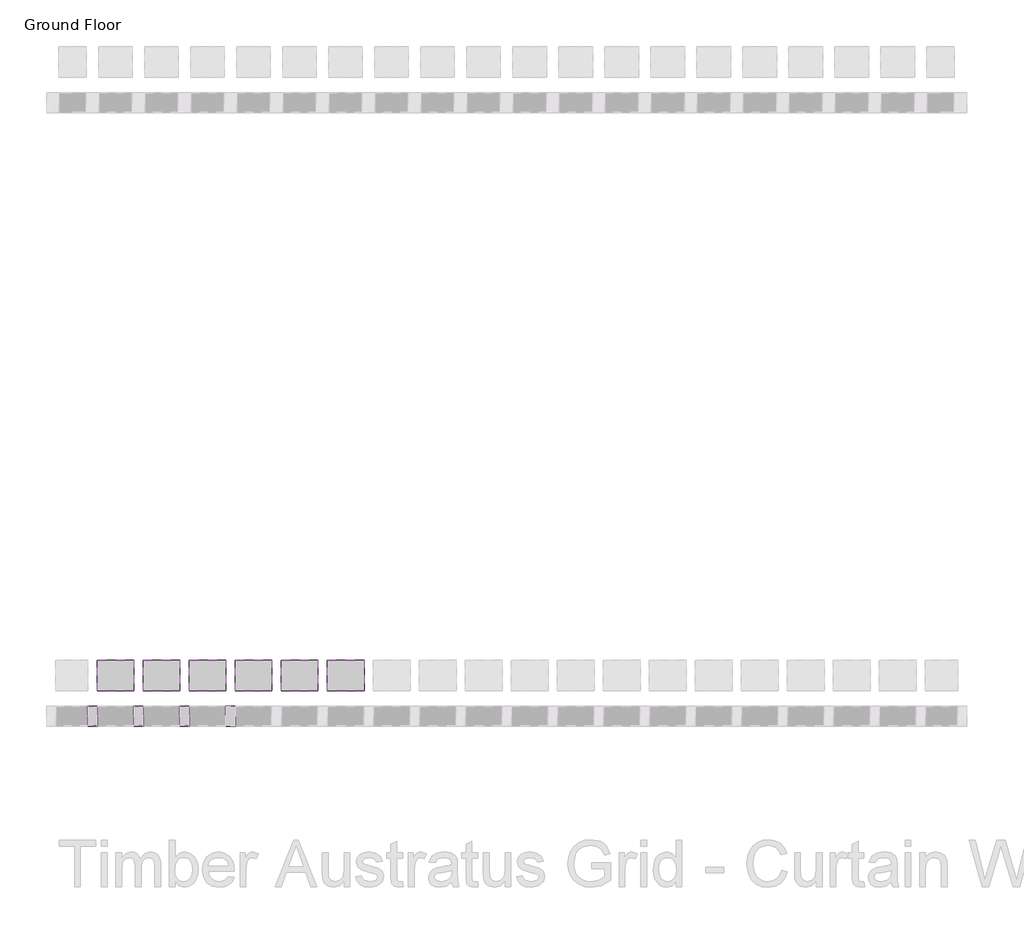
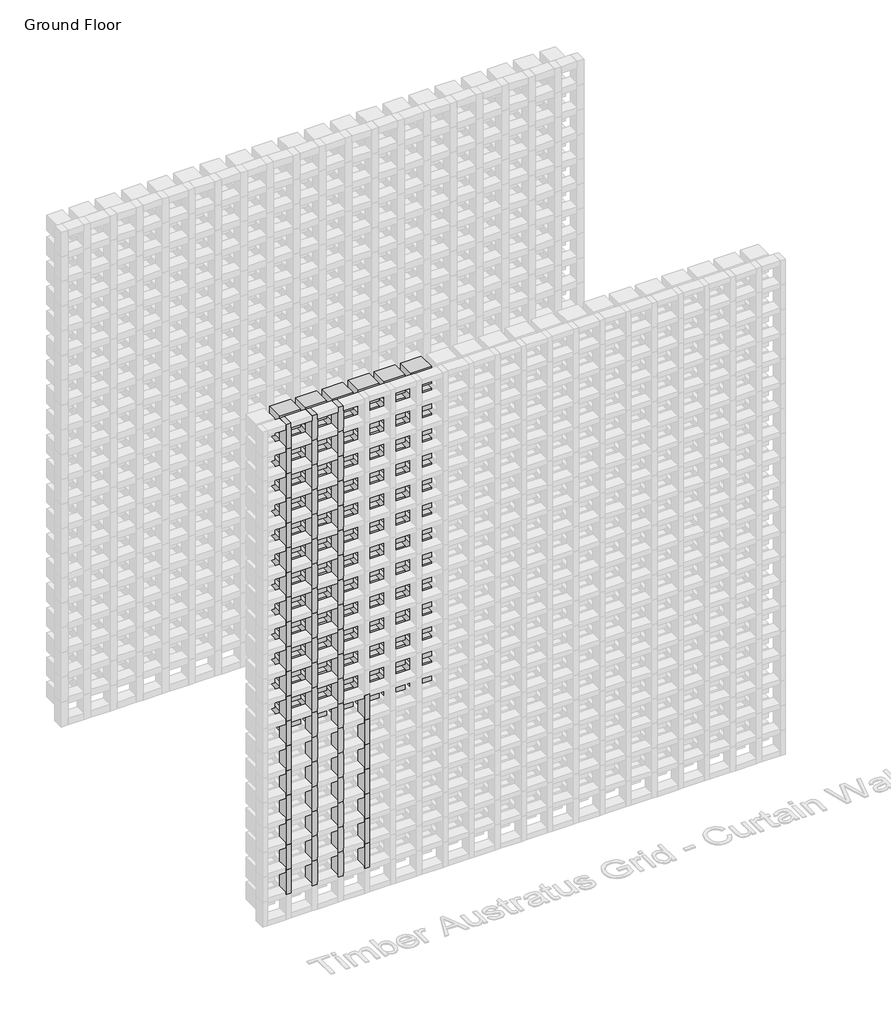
# One storey, part 47 of 350: 78 plates, 64 members.
"""IFC4 building model written with IfcOpenShell, lengths in millimetres."""

from ifc_helpers import new_model, si_unit, origin, place, context, project, spatial, transform, mapped, element, save
from components import rectangular_mullion_5b501421, empty_system_panel_empty_a57e421f, empty_system_panel_empty_fe50b430

model = new_model("IFC4")

# Units and contexts
model_context = context("Model", 3, world=origin())
ifc_project = project(units=[si_unit("LENGTHUNIT", "METRE", prefix="MILLI")], contexts=[model_context])

# Site, building, storey
site = spatial("IfcSite", under=ifc_project)
building = spatial("IfcBuilding", under=site)
storey = spatial("IfcBuildingStorey", under=building, Name="Ground Floor", Elevation=0.0)

# Members
placement = place(None, origin())
rectangular_mullion_shape = rectangular_mullion_5b501421(model_context)
element("IfcMember", 1, ObjectType="Rectangular Mullion : Batten_Timber_Modinex_Austratus_Grid_Fascia_30x65_AlaskanYellowCedar", at=placement, inside=storey, context=model_context, shape_type="MappedRepresentation", body=[
    mapped(rectangular_mullion_shape, transform((2066.4361642, 38968.2978302, 150.0), x_axis=(1.0, 0.0, 0.0), y_axis=(0.0, -1.0, 0.0), z_axis=(0.0, 0.0, -1.0))),
])
element("IfcMember", 2, ObjectType="Rectangular Mullion : Batten_Timber_Modinex_Austratus_Grid_Fascia_30x65_AlaskanYellowCedar", at=placement, inside=storey, context=model_context, shape_type="MappedRepresentation", body=[
    mapped(rectangular_mullion_shape, transform((2066.4361642, 38968.2978302, 300.0), x_axis=(1.0, 0.0, 0.0), y_axis=(0.0, -1.0, 0.0), z_axis=(0.0, 0.0, -1.0))),
])
element("IfcMember", 3, ObjectType="Rectangular Mullion : Batten_Timber_Modinex_Austratus_Grid_Fascia_30x65_AlaskanYellowCedar", at=placement, inside=storey, context=model_context, shape_type="MappedRepresentation", body=[
    mapped(rectangular_mullion_shape, transform((2066.4361642, 38968.2978302, 450.0), x_axis=(1.0, 0.0, 0.0), y_axis=(0.0, -1.0, 0.0), z_axis=(0.0, 0.0, -1.0))),
])
element("IfcMember", 4, ObjectType="Rectangular Mullion : Batten_Timber_Modinex_Austratus_Grid_Fascia_30x65_AlaskanYellowCedar", at=placement, inside=storey, context=model_context, shape_type="MappedRepresentation", body=[
    mapped(rectangular_mullion_shape, transform((2066.4361642, 38968.2978302, 600.0), x_axis=(1.0, 0.0, 0.0), y_axis=(0.0, -1.0, 0.0), z_axis=(0.0, 0.0, -1.0))),
])
element("IfcMember", 5, ObjectType="Rectangular Mullion : Batten_Timber_Modinex_Austratus_Grid_Fascia_30x65_AlaskanYellowCedar", at=placement, inside=storey, context=model_context, shape_type="MappedRepresentation", body=[
    mapped(rectangular_mullion_shape, transform((2066.4361642, 38968.2978302, 750.0), x_axis=(1.0, 0.0, 0.0), y_axis=(0.0, -1.0, 0.0), z_axis=(0.0, 0.0, -1.0))),
])
element("IfcMember", 6, ObjectType="Rectangular Mullion : Batten_Timber_Modinex_Austratus_Grid_Fascia_30x65_AlaskanYellowCedar", at=placement, inside=storey, context=model_context, shape_type="MappedRepresentation", body=[
    mapped(rectangular_mullion_shape, transform((2066.4361642, 38968.2978302, 900.0), x_axis=(1.0, 0.0, 0.0), y_axis=(0.0, -1.0, 0.0), z_axis=(0.0, 0.0, -1.0))),
])
element("IfcMember", 7, ObjectType="Rectangular Mullion : Batten_Timber_Modinex_Austratus_Grid_Fascia_30x65_AlaskanYellowCedar", at=placement, inside=storey, context=model_context, shape_type="MappedRepresentation", body=[
    mapped(rectangular_mullion_shape, transform((2066.4361642, 38968.2978302, 1050.0), x_axis=(1.0, 0.0, 0.0), y_axis=(0.0, -1.0, 0.0), z_axis=(0.0, 0.0, -1.0))),
])
element("IfcMember", 8, ObjectType="Rectangular Mullion : Batten_Timber_Modinex_Austratus_Grid_Fascia_30x65_AlaskanYellowCedar", at=placement, inside=storey, context=model_context, shape_type="MappedRepresentation", body=[
    mapped(rectangular_mullion_shape, transform((2066.4361642, 38968.2978302, 1200.0), x_axis=(1.0, 0.0, 0.0), y_axis=(0.0, -1.0, 0.0), z_axis=(0.0, 0.0, -1.0))),
])
element("IfcMember", 9, ObjectType="Rectangular Mullion : Batten_Timber_Modinex_Austratus_Grid_Fascia_30x65_AlaskanYellowCedar", at=placement, inside=storey, context=model_context, shape_type="MappedRepresentation", body=[
    mapped(rectangular_mullion_shape, transform((2066.4361642, 38968.2978302, 1350.0), x_axis=(1.0, 0.0, 0.0), y_axis=(0.0, -1.0, 0.0), z_axis=(0.0, 0.0, -1.0))),
])
element("IfcMember", 10, ObjectType="Rectangular Mullion : Batten_Timber_Modinex_Austratus_Grid_Fascia_30x65_AlaskanYellowCedar", at=placement, inside=storey, context=model_context, shape_type="MappedRepresentation", body=[
    mapped(rectangular_mullion_shape, transform((2066.4361642, 38968.2978302, 1500.0), x_axis=(1.0, 0.0, 0.0), y_axis=(0.0, -1.0, 0.0), z_axis=(0.0, 0.0, -1.0))),
])
element("IfcMember", 11, ObjectType="Rectangular Mullion : Batten_Timber_Modinex_Austratus_Grid_Fascia_30x65_AlaskanYellowCedar", at=placement, inside=storey, context=model_context, shape_type="MappedRepresentation", body=[
    mapped(rectangular_mullion_shape, transform((2066.4361642, 38968.2978302, 1650.0), x_axis=(1.0, 0.0, 0.0), y_axis=(0.0, -1.0, 0.0), z_axis=(0.0, 0.0, -1.0))),
])
element("IfcMember", 12, ObjectType="Rectangular Mullion : Batten_Timber_Modinex_Austratus_Grid_Fascia_30x65_AlaskanYellowCedar", at=placement, inside=storey, context=model_context, shape_type="MappedRepresentation", body=[
    mapped(rectangular_mullion_shape, transform((2066.4361642, 38968.2978302, 1800.0), x_axis=(1.0, 0.0, 0.0), y_axis=(0.0, -1.0, 0.0), z_axis=(0.0, 0.0, -1.0))),
])
element("IfcMember", 13, ObjectType="Rectangular Mullion : Batten_Timber_Modinex_Austratus_Grid_Fascia_30x65_AlaskanYellowCedar", at=placement, inside=storey, context=model_context, shape_type="MappedRepresentation", body=[
    mapped(rectangular_mullion_shape, transform((2066.4361642, 38968.2978302, 1950.0), x_axis=(1.0, 0.0, 0.0), y_axis=(0.0, -1.0, 0.0), z_axis=(0.0, 0.0, -1.0))),
])
element("IfcMember", 14, ObjectType="Rectangular Mullion : Batten_Timber_Modinex_Austratus_Grid_Fascia_30x65_AlaskanYellowCedar", at=placement, inside=storey, context=model_context, shape_type="MappedRepresentation", body=[
    mapped(rectangular_mullion_shape, transform((2066.4361642, 38968.2978302, 2100.0), x_axis=(1.0, 0.0, 0.0), y_axis=(0.0, -1.0, 0.0), z_axis=(0.0, 0.0, -1.0))),
])
element("IfcMember", 15, ObjectType="Rectangular Mullion : Batten_Timber_Modinex_Austratus_Grid_Fascia_30x65_AlaskanYellowCedar", at=placement, inside=storey, context=model_context, shape_type="MappedRepresentation", body=[
    mapped(rectangular_mullion_shape, transform((2066.4361642, 38968.2978302, 2250.0), x_axis=(1.0, 0.0, 0.0), y_axis=(0.0, -1.0, 0.0), z_axis=(0.0, 0.0, -1.0))),
])
element("IfcMember", 16, ObjectType="Rectangular Mullion : Batten_Timber_Modinex_Austratus_Grid_Fascia_30x65_AlaskanYellowCedar", at=placement, inside=storey, context=model_context, shape_type="MappedRepresentation", body=[
    mapped(rectangular_mullion_shape, transform((2066.4361642, 38968.2978302, 2400.0), x_axis=(1.0, 0.0, 0.0), y_axis=(0.0, -1.0, 0.0), z_axis=(0.0, 0.0, -1.0))),
])
element("IfcMember", 17, ObjectType="Rectangular Mullion : Batten_Timber_Modinex_Austratus_Grid_Fascia_30x65_AlaskanYellowCedar", at=placement, inside=storey, context=model_context, shape_type="MappedRepresentation", body=[
    mapped(rectangular_mullion_shape, transform((2066.4361642, 38968.2978302, 2550.0), x_axis=(1.0, 0.0, 0.0), y_axis=(0.0, -1.0, 0.0), z_axis=(0.0, 0.0, -1.0))),
])
element("IfcMember", 18, ObjectType="Rectangular Mullion : Batten_Timber_Modinex_Austratus_Grid_Fascia_30x65_AlaskanYellowCedar", at=placement, inside=storey, context=model_context, shape_type="MappedRepresentation", body=[
    mapped(rectangular_mullion_shape, transform((2066.4361642, 38968.2978302, 2700.0), x_axis=(1.0, 0.0, 0.0), y_axis=(0.0, -1.0, 0.0), z_axis=(0.0, 0.0, -1.0))),
])
element("IfcMember", 19, ObjectType="Rectangular Mullion : Batten_Timber_Modinex_Austratus_Grid_Fascia_30x65_AlaskanYellowCedar", at=placement, inside=storey, context=model_context, shape_type="MappedRepresentation", body=[
    mapped(rectangular_mullion_shape, transform((2216.4361642, 38968.2978302, 150.0), x_axis=(1.0, 0.0, 0.0), y_axis=(0.0, -1.0, 0.0), z_axis=(0.0, 0.0, -1.0))),
])
element("IfcMember", 20, ObjectType="Rectangular Mullion : Batten_Timber_Modinex_Austratus_Grid_Fascia_30x65_AlaskanYellowCedar", at=placement, inside=storey, context=model_context, shape_type="MappedRepresentation", body=[
    mapped(rectangular_mullion_shape, transform((2216.4361642, 38968.2978302, 300.0), x_axis=(1.0, 0.0, 0.0), y_axis=(0.0, -1.0, 0.0), z_axis=(0.0, 0.0, -1.0))),
])
element("IfcMember", 21, ObjectType="Rectangular Mullion : Batten_Timber_Modinex_Austratus_Grid_Fascia_30x65_AlaskanYellowCedar", at=placement, inside=storey, context=model_context, shape_type="MappedRepresentation", body=[
    mapped(rectangular_mullion_shape, transform((2216.4361642, 38968.2978302, 450.0), x_axis=(1.0, 0.0, 0.0), y_axis=(0.0, -1.0, 0.0), z_axis=(0.0, 0.0, -1.0))),
])
element("IfcMember", 22, ObjectType="Rectangular Mullion : Batten_Timber_Modinex_Austratus_Grid_Fascia_30x65_AlaskanYellowCedar", at=placement, inside=storey, context=model_context, shape_type="MappedRepresentation", body=[
    mapped(rectangular_mullion_shape, transform((2216.4361642, 38968.2978302, 600.0), x_axis=(1.0, 0.0, 0.0), y_axis=(0.0, -1.0, 0.0), z_axis=(0.0, 0.0, -1.0))),
])
element("IfcMember", 23, ObjectType="Rectangular Mullion : Batten_Timber_Modinex_Austratus_Grid_Fascia_30x65_AlaskanYellowCedar", at=placement, inside=storey, context=model_context, shape_type="MappedRepresentation", body=[
    mapped(rectangular_mullion_shape, transform((2216.4361642, 38968.2978302, 750.0), x_axis=(1.0, 0.0, 0.0), y_axis=(0.0, -1.0, 0.0), z_axis=(0.0, 0.0, -1.0))),
])
element("IfcMember", 24, ObjectType="Rectangular Mullion : Batten_Timber_Modinex_Austratus_Grid_Fascia_30x65_AlaskanYellowCedar", at=placement, inside=storey, context=model_context, shape_type="MappedRepresentation", body=[
    mapped(rectangular_mullion_shape, transform((2216.4361642, 38968.2978302, 900.0), x_axis=(1.0, 0.0, 0.0), y_axis=(0.0, -1.0, 0.0), z_axis=(0.0, 0.0, -1.0))),
])
element("IfcMember", 25, ObjectType="Rectangular Mullion : Batten_Timber_Modinex_Austratus_Grid_Fascia_30x65_AlaskanYellowCedar", at=placement, inside=storey, context=model_context, shape_type="MappedRepresentation", body=[
    mapped(rectangular_mullion_shape, transform((2216.4361642, 38968.2978302, 1050.0), x_axis=(1.0, 0.0, 0.0), y_axis=(0.0, -1.0, 0.0), z_axis=(0.0, 0.0, -1.0))),
])
element("IfcMember", 26, ObjectType="Rectangular Mullion : Batten_Timber_Modinex_Austratus_Grid_Fascia_30x65_AlaskanYellowCedar", at=placement, inside=storey, context=model_context, shape_type="MappedRepresentation", body=[
    mapped(rectangular_mullion_shape, transform((2216.4361642, 38968.2978302, 1200.0), x_axis=(1.0, 0.0, 0.0), y_axis=(0.0, -1.0, 0.0), z_axis=(0.0, 0.0, -1.0))),
])
element("IfcMember", 27, ObjectType="Rectangular Mullion : Batten_Timber_Modinex_Austratus_Grid_Fascia_30x65_AlaskanYellowCedar", at=placement, inside=storey, context=model_context, shape_type="MappedRepresentation", body=[
    mapped(rectangular_mullion_shape, transform((2216.4361642, 38968.2978302, 1350.0), x_axis=(1.0, 0.0, 0.0), y_axis=(0.0, -1.0, 0.0), z_axis=(0.0, 0.0, -1.0))),
])
element("IfcMember", 28, ObjectType="Rectangular Mullion : Batten_Timber_Modinex_Austratus_Grid_Fascia_30x65_AlaskanYellowCedar", at=placement, inside=storey, context=model_context, shape_type="MappedRepresentation", body=[
    mapped(rectangular_mullion_shape, transform((2216.4361642, 38968.2978302, 1500.0), x_axis=(1.0, 0.0, 0.0), y_axis=(0.0, -1.0, 0.0), z_axis=(0.0, 0.0, -1.0))),
])
element("IfcMember", 29, ObjectType="Rectangular Mullion : Batten_Timber_Modinex_Austratus_Grid_Fascia_30x65_AlaskanYellowCedar", at=placement, inside=storey, context=model_context, shape_type="MappedRepresentation", body=[
    mapped(rectangular_mullion_shape, transform((2216.4361642, 38968.2978302, 1650.0), x_axis=(1.0, 0.0, 0.0), y_axis=(0.0, -1.0, 0.0), z_axis=(0.0, 0.0, -1.0))),
])
element("IfcMember", 30, ObjectType="Rectangular Mullion : Batten_Timber_Modinex_Austratus_Grid_Fascia_30x65_AlaskanYellowCedar", at=placement, inside=storey, context=model_context, shape_type="MappedRepresentation", body=[
    mapped(rectangular_mullion_shape, transform((2216.4361642, 38968.2978302, 1800.0), x_axis=(1.0, 0.0, 0.0), y_axis=(0.0, -1.0, 0.0), z_axis=(0.0, 0.0, -1.0))),
])
element("IfcMember", 31, ObjectType="Rectangular Mullion : Batten_Timber_Modinex_Austratus_Grid_Fascia_30x65_AlaskanYellowCedar", at=placement, inside=storey, context=model_context, shape_type="MappedRepresentation", body=[
    mapped(rectangular_mullion_shape, transform((2216.4361642, 38968.2978302, 1950.0), x_axis=(1.0, 0.0, 0.0), y_axis=(0.0, -1.0, 0.0), z_axis=(0.0, 0.0, -1.0))),
])
element("IfcMember", 32, ObjectType="Rectangular Mullion : Batten_Timber_Modinex_Austratus_Grid_Fascia_30x65_AlaskanYellowCedar", at=placement, inside=storey, context=model_context, shape_type="MappedRepresentation", body=[
    mapped(rectangular_mullion_shape, transform((2216.4361642, 38968.2978302, 2100.0), x_axis=(1.0, 0.0, 0.0), y_axis=(0.0, -1.0, 0.0), z_axis=(0.0, 0.0, -1.0))),
])
element("IfcMember", 33, ObjectType="Rectangular Mullion : Batten_Timber_Modinex_Austratus_Grid_Fascia_30x65_AlaskanYellowCedar", at=placement, inside=storey, context=model_context, shape_type="MappedRepresentation", body=[
    mapped(rectangular_mullion_shape, transform((2216.4361642, 38968.2978302, 2250.0), x_axis=(1.0, 0.0, 0.0), y_axis=(0.0, -1.0, 0.0), z_axis=(0.0, 0.0, -1.0))),
])
element("IfcMember", 34, ObjectType="Rectangular Mullion : Batten_Timber_Modinex_Austratus_Grid_Fascia_30x65_AlaskanYellowCedar", at=placement, inside=storey, context=model_context, shape_type="MappedRepresentation", body=[
    mapped(rectangular_mullion_shape, transform((2216.4361642, 38968.2978302, 2400.0), x_axis=(1.0, 0.0, 0.0), y_axis=(0.0, -1.0, 0.0), z_axis=(0.0, 0.0, -1.0))),
])
element("IfcMember", 35, ObjectType="Rectangular Mullion : Batten_Timber_Modinex_Austratus_Grid_Fascia_30x65_AlaskanYellowCedar", at=placement, inside=storey, context=model_context, shape_type="MappedRepresentation", body=[
    mapped(rectangular_mullion_shape, transform((2216.4361642, 38968.2978302, 2550.0), x_axis=(1.0, 0.0, 0.0), y_axis=(0.0, -1.0, 0.0), z_axis=(0.0, 0.0, -1.0))),
])
element("IfcMember", 36, ObjectType="Rectangular Mullion : Batten_Timber_Modinex_Austratus_Grid_Fascia_30x65_AlaskanYellowCedar", at=placement, inside=storey, context=model_context, shape_type="MappedRepresentation", body=[
    mapped(rectangular_mullion_shape, transform((2216.4361642, 38968.2978302, 2700.0), x_axis=(1.0, 0.0, 0.0), y_axis=(0.0, -1.0, 0.0), z_axis=(0.0, 0.0, -1.0))),
])
element("IfcMember", 37, ObjectType="Rectangular Mullion : Batten_Timber_Modinex_Austratus_Grid_Fascia_30x65_AlaskanYellowCedar", at=placement, inside=storey, context=model_context, shape_type="MappedRepresentation", body=[
    mapped(rectangular_mullion_shape, transform((2366.4361642, 38968.2978302, 150.0), x_axis=(1.0, 0.0, 0.0), y_axis=(0.0, -1.0, 0.0), z_axis=(0.0, 0.0, -1.0))),
])
element("IfcMember", 38, ObjectType="Rectangular Mullion : Batten_Timber_Modinex_Austratus_Grid_Fascia_30x65_AlaskanYellowCedar", at=placement, inside=storey, context=model_context, shape_type="MappedRepresentation", body=[
    mapped(rectangular_mullion_shape, transform((2366.4361642, 38968.2978302, 300.0), x_axis=(1.0, 0.0, 0.0), y_axis=(0.0, -1.0, 0.0), z_axis=(0.0, 0.0, -1.0))),
])
element("IfcMember", 39, ObjectType="Rectangular Mullion : Batten_Timber_Modinex_Austratus_Grid_Fascia_30x65_AlaskanYellowCedar", at=placement, inside=storey, context=model_context, shape_type="MappedRepresentation", body=[
    mapped(rectangular_mullion_shape, transform((2366.4361642, 38968.2978302, 450.0), x_axis=(1.0, 0.0, 0.0), y_axis=(0.0, -1.0, 0.0), z_axis=(0.0, 0.0, -1.0))),
])
element("IfcMember", 40, ObjectType="Rectangular Mullion : Batten_Timber_Modinex_Austratus_Grid_Fascia_30x65_AlaskanYellowCedar", at=placement, inside=storey, context=model_context, shape_type="MappedRepresentation", body=[
    mapped(rectangular_mullion_shape, transform((2366.4361642, 38968.2978302, 600.0), x_axis=(1.0, 0.0, 0.0), y_axis=(0.0, -1.0, 0.0), z_axis=(0.0, 0.0, -1.0))),
])
element("IfcMember", 41, ObjectType="Rectangular Mullion : Batten_Timber_Modinex_Austratus_Grid_Fascia_30x65_AlaskanYellowCedar", at=placement, inside=storey, context=model_context, shape_type="MappedRepresentation", body=[
    mapped(rectangular_mullion_shape, transform((2366.4361642, 38968.2978302, 750.0), x_axis=(1.0, 0.0, 0.0), y_axis=(0.0, -1.0, 0.0), z_axis=(0.0, 0.0, -1.0))),
])
element("IfcMember", 42, ObjectType="Rectangular Mullion : Batten_Timber_Modinex_Austratus_Grid_Fascia_30x65_AlaskanYellowCedar", at=placement, inside=storey, context=model_context, shape_type="MappedRepresentation", body=[
    mapped(rectangular_mullion_shape, transform((2366.4361642, 38968.2978302, 900.0), x_axis=(1.0, 0.0, 0.0), y_axis=(0.0, -1.0, 0.0), z_axis=(0.0, 0.0, -1.0))),
])
element("IfcMember", 43, ObjectType="Rectangular Mullion : Batten_Timber_Modinex_Austratus_Grid_Fascia_30x65_AlaskanYellowCedar", at=placement, inside=storey, context=model_context, shape_type="MappedRepresentation", body=[
    mapped(rectangular_mullion_shape, transform((2366.4361642, 38968.2978302, 1050.0), x_axis=(1.0, 0.0, 0.0), y_axis=(0.0, -1.0, 0.0), z_axis=(0.0, 0.0, -1.0))),
])
element("IfcMember", 44, ObjectType="Rectangular Mullion : Batten_Timber_Modinex_Austratus_Grid_Fascia_30x65_AlaskanYellowCedar", at=placement, inside=storey, context=model_context, shape_type="MappedRepresentation", body=[
    mapped(rectangular_mullion_shape, transform((2366.4361642, 38968.2978302, 1200.0), x_axis=(1.0, 0.0, 0.0), y_axis=(0.0, -1.0, 0.0), z_axis=(0.0, 0.0, -1.0))),
])
element("IfcMember", 45, ObjectType="Rectangular Mullion : Batten_Timber_Modinex_Austratus_Grid_Fascia_30x65_AlaskanYellowCedar", at=placement, inside=storey, context=model_context, shape_type="MappedRepresentation", body=[
    mapped(rectangular_mullion_shape, transform((2366.4361642, 38968.2978302, 1350.0), x_axis=(1.0, 0.0, 0.0), y_axis=(0.0, -1.0, 0.0), z_axis=(0.0, 0.0, -1.0))),
])
element("IfcMember", 46, ObjectType="Rectangular Mullion : Batten_Timber_Modinex_Austratus_Grid_Fascia_30x65_AlaskanYellowCedar", at=placement, inside=storey, context=model_context, shape_type="MappedRepresentation", body=[
    mapped(rectangular_mullion_shape, transform((2366.4361642, 38968.2978302, 1500.0), x_axis=(1.0, 0.0, 0.0), y_axis=(0.0, -1.0, 0.0), z_axis=(0.0, 0.0, -1.0))),
])
element("IfcMember", 47, ObjectType="Rectangular Mullion : Batten_Timber_Modinex_Austratus_Grid_Fascia_30x65_AlaskanYellowCedar", at=placement, inside=storey, context=model_context, shape_type="MappedRepresentation", body=[
    mapped(rectangular_mullion_shape, transform((2366.4361642, 38968.2978302, 1650.0), x_axis=(1.0, 0.0, 0.0), y_axis=(0.0, -1.0, 0.0), z_axis=(0.0, 0.0, -1.0))),
])
element("IfcMember", 48, ObjectType="Rectangular Mullion : Batten_Timber_Modinex_Austratus_Grid_Fascia_30x65_AlaskanYellowCedar", at=placement, inside=storey, context=model_context, shape_type="MappedRepresentation", body=[
    mapped(rectangular_mullion_shape, transform((2366.4361642, 38968.2978302, 1800.0), x_axis=(1.0, 0.0, 0.0), y_axis=(0.0, -1.0, 0.0), z_axis=(0.0, 0.0, -1.0))),
])
element("IfcMember", 49, ObjectType="Rectangular Mullion : Batten_Timber_Modinex_Austratus_Grid_Fascia_30x65_AlaskanYellowCedar", at=placement, inside=storey, context=model_context, shape_type="MappedRepresentation", body=[
    mapped(rectangular_mullion_shape, transform((2366.4361642, 38968.2978302, 1950.0), x_axis=(1.0, 0.0, 0.0), y_axis=(0.0, -1.0, 0.0), z_axis=(0.0, 0.0, -1.0))),
])
element("IfcMember", 50, ObjectType="Rectangular Mullion : Batten_Timber_Modinex_Austratus_Grid_Fascia_30x65_AlaskanYellowCedar", at=placement, inside=storey, context=model_context, shape_type="MappedRepresentation", body=[
    mapped(rectangular_mullion_shape, transform((2366.4361642, 38968.2978302, 2100.0), x_axis=(1.0, 0.0, 0.0), y_axis=(0.0, -1.0, 0.0), z_axis=(0.0, 0.0, -1.0))),
])
element("IfcMember", 51, ObjectType="Rectangular Mullion : Batten_Timber_Modinex_Austratus_Grid_Fascia_30x65_AlaskanYellowCedar", at=placement, inside=storey, context=model_context, shape_type="MappedRepresentation", body=[
    mapped(rectangular_mullion_shape, transform((2366.4361642, 38968.2978302, 2250.0), x_axis=(1.0, 0.0, 0.0), y_axis=(0.0, -1.0, 0.0), z_axis=(0.0, 0.0, -1.0))),
])
element("IfcMember", 52, ObjectType="Rectangular Mullion : Batten_Timber_Modinex_Austratus_Grid_Fascia_30x65_AlaskanYellowCedar", at=placement, inside=storey, context=model_context, shape_type="MappedRepresentation", body=[
    mapped(rectangular_mullion_shape, transform((2366.4361642, 38968.2978302, 2400.0), x_axis=(1.0, 0.0, 0.0), y_axis=(0.0, -1.0, 0.0), z_axis=(0.0, 0.0, -1.0))),
])
element("IfcMember", 53, ObjectType="Rectangular Mullion : Batten_Timber_Modinex_Austratus_Grid_Fascia_30x65_AlaskanYellowCedar", at=placement, inside=storey, context=model_context, shape_type="MappedRepresentation", body=[
    mapped(rectangular_mullion_shape, transform((2366.4361642, 38968.2978302, 2550.0), x_axis=(1.0, 0.0, 0.0), y_axis=(0.0, -1.0, 0.0), z_axis=(0.0, 0.0, -1.0))),
])
element("IfcMember", 54, ObjectType="Rectangular Mullion : Batten_Timber_Modinex_Austratus_Grid_Fascia_30x65_AlaskanYellowCedar", at=placement, inside=storey, context=model_context, shape_type="MappedRepresentation", body=[
    mapped(rectangular_mullion_shape, transform((2366.4361642, 38968.2978302, 2700.0), x_axis=(1.0, 0.0, 0.0), y_axis=(0.0, -1.0, 0.0), z_axis=(0.0, 0.0, -1.0))),
])
element("IfcMember", 55, ObjectType="Rectangular Mullion : Batten_Timber_Modinex_Austratus_Grid_Fascia_30x65_AlaskanYellowCedar", at=placement, inside=storey, context=model_context, shape_type="MappedRepresentation", body=[
    mapped(rectangular_mullion_shape, transform((2516.4361642, 38968.2978302, 150.0), x_axis=(1.0, 0.0, 0.0), y_axis=(0.0, -1.0, 0.0), z_axis=(0.0, 0.0, -1.0))),
])
element("IfcMember", 56, ObjectType="Rectangular Mullion : Batten_Timber_Modinex_Austratus_Grid_Fascia_30x65_AlaskanYellowCedar", at=placement, inside=storey, context=model_context, shape_type="MappedRepresentation", body=[
    mapped(rectangular_mullion_shape, transform((2516.4361642, 38968.2978302, 300.0), x_axis=(1.0, 0.0, 0.0), y_axis=(0.0, -1.0, 0.0), z_axis=(0.0, 0.0, -1.0))),
])
element("IfcMember", 57, ObjectType="Rectangular Mullion : Batten_Timber_Modinex_Austratus_Grid_Fascia_30x65_AlaskanYellowCedar", at=placement, inside=storey, context=model_context, shape_type="MappedRepresentation", body=[
    mapped(rectangular_mullion_shape, transform((2516.4361642, 38968.2978302, 450.0), x_axis=(1.0, 0.0, 0.0), y_axis=(0.0, -1.0, 0.0), z_axis=(0.0, 0.0, -1.0))),
])
element("IfcMember", 58, ObjectType="Rectangular Mullion : Batten_Timber_Modinex_Austratus_Grid_Fascia_30x65_AlaskanYellowCedar", at=placement, inside=storey, context=model_context, shape_type="MappedRepresentation", body=[
    mapped(rectangular_mullion_shape, transform((2516.4361642, 38968.2978302, 600.0), x_axis=(1.0, 0.0, 0.0), y_axis=(0.0, -1.0, 0.0), z_axis=(0.0, 0.0, -1.0))),
])
element("IfcMember", 59, ObjectType="Rectangular Mullion : Batten_Timber_Modinex_Austratus_Grid_Fascia_30x65_AlaskanYellowCedar", at=placement, inside=storey, context=model_context, shape_type="MappedRepresentation", body=[
    mapped(rectangular_mullion_shape, transform((2516.4361642, 38968.2978302, 750.0), x_axis=(1.0, 0.0, 0.0), y_axis=(0.0, -1.0, 0.0), z_axis=(0.0, 0.0, -1.0))),
])
element("IfcMember", 60, ObjectType="Rectangular Mullion : Batten_Timber_Modinex_Austratus_Grid_Fascia_30x65_AlaskanYellowCedar", at=placement, inside=storey, context=model_context, shape_type="MappedRepresentation", body=[
    mapped(rectangular_mullion_shape, transform((2516.4361642, 38968.2978302, 900.0), x_axis=(1.0, 0.0, 0.0), y_axis=(0.0, -1.0, 0.0), z_axis=(0.0, 0.0, -1.0))),
])
element("IfcMember", 61, ObjectType="Rectangular Mullion : Batten_Timber_Modinex_Austratus_Grid_Fascia_30x65_AlaskanYellowCedar", at=placement, inside=storey, context=model_context, shape_type="MappedRepresentation", body=[
    mapped(rectangular_mullion_shape, transform((2516.4361642, 38968.2978302, 1050.0), x_axis=(1.0, 0.0, 0.0), y_axis=(0.0, -1.0, 0.0), z_axis=(0.0, 0.0, -1.0))),
])
element("IfcMember", 62, ObjectType="Rectangular Mullion : Batten_Timber_Modinex_Austratus_Grid_Fascia_30x65_AlaskanYellowCedar", at=placement, inside=storey, context=model_context, shape_type="MappedRepresentation", body=[
    mapped(rectangular_mullion_shape, transform((2066.4361642, 38968.2978302, 2850.0), x_axis=(1.0, 0.0, 0.0), y_axis=(0.0, -1.0, 0.0), z_axis=(0.0, 0.0, -1.0))),
])
element("IfcMember", 63, ObjectType="Rectangular Mullion : Batten_Timber_Modinex_Austratus_Grid_Fascia_30x65_AlaskanYellowCedar", at=placement, inside=storey, context=model_context, shape_type="MappedRepresentation", body=[
    mapped(rectangular_mullion_shape, transform((2216.4361642, 38968.2978302, 2850.0), x_axis=(1.0, 0.0, 0.0), y_axis=(0.0, -1.0, 0.0), z_axis=(0.0, 0.0, -1.0))),
])
element("IfcMember", 64, ObjectType="Rectangular Mullion : Batten_Timber_Modinex_Austratus_Grid_Fascia_30x65_AlaskanYellowCedar", at=placement, inside=storey, context=model_context, shape_type="MappedRepresentation", body=[
    mapped(rectangular_mullion_shape, transform((2366.4361642, 38968.2978302, 2850.0), x_axis=(1.0, 0.0, 0.0), y_axis=(0.0, -1.0, 0.0), z_axis=(0.0, 0.0, -1.0))),
])

# Plates
empty_system_panel_empty_shape = empty_system_panel_empty_a57e421f(model_context)
element("IfcPlate", 65, ObjectType="Empty System Panel : Empty", at=placement, inside=storey, context=model_context, shape_type="MappedRepresentation", body=[
    mapped(empty_system_panel_empty_shape, transform((2141.4361642, 38968.2978302, 1065.0), x_axis=(1.0, 0.0, 0.0), y_axis=(0.0, 1.0, 0.0), z_axis=(0.0, 0.0, 1.0))),
])
element("IfcPlate", 66, ObjectType="Empty System Panel : Empty", at=placement, inside=storey, context=model_context, shape_type="MappedRepresentation", body=[
    mapped(empty_system_panel_empty_shape, transform((2291.4361642, 38968.2978302, 1065.0), x_axis=(1.0, 0.0, 0.0), y_axis=(0.0, 1.0, 0.0), z_axis=(0.0, 0.0, 1.0))),
])
element("IfcPlate", 67, ObjectType="Empty System Panel : Empty", at=placement, inside=storey, context=model_context, shape_type="MappedRepresentation", body=[
    mapped(empty_system_panel_empty_shape, transform((2441.4361642, 38968.2978302, 1065.0), x_axis=(1.0, 0.0, 0.0), y_axis=(0.0, 1.0, 0.0), z_axis=(0.0, 0.0, 1.0))),
])
element("IfcPlate", 68, ObjectType="Empty System Panel : Empty", at=placement, inside=storey, context=model_context, shape_type="MappedRepresentation", body=[
    mapped(empty_system_panel_empty_shape, transform((2591.4361642, 38968.2978302, 1065.0), x_axis=(1.0, 0.0, 0.0), y_axis=(0.0, 1.0, 0.0), z_axis=(0.0, 0.0, 1.0))),
])
element("IfcPlate", 69, ObjectType="Empty System Panel : Empty", at=placement, inside=storey, context=model_context, shape_type="MappedRepresentation", body=[
    mapped(empty_system_panel_empty_shape, transform((2741.4361642, 38968.2978302, 1065.0), x_axis=(1.0, 0.0, 0.0), y_axis=(0.0, 1.0, 0.0), z_axis=(0.0, 0.0, 1.0))),
])
element("IfcPlate", 70, ObjectType="Empty System Panel : Empty", at=placement, inside=storey, context=model_context, shape_type="MappedRepresentation", body=[
    mapped(empty_system_panel_empty_shape, transform((2891.4361642, 38968.2978302, 1065.0), x_axis=(1.0, 0.0, 0.0), y_axis=(0.0, 1.0, 0.0), z_axis=(0.0, 0.0, 1.0))),
])
element("IfcPlate", 71, ObjectType="Empty System Panel : Empty", at=placement, inside=storey, context=model_context, shape_type="MappedRepresentation", body=[
    mapped(empty_system_panel_empty_shape, transform((2141.4361642, 38968.2978302, 1215.0), x_axis=(1.0, 0.0, 0.0), y_axis=(0.0, 1.0, 0.0), z_axis=(0.0, 0.0, 1.0))),
])
element("IfcPlate", 72, ObjectType="Empty System Panel : Empty", at=placement, inside=storey, context=model_context, shape_type="MappedRepresentation", body=[
    mapped(empty_system_panel_empty_shape, transform((2291.4361642, 38968.2978302, 1215.0), x_axis=(1.0, 0.0, 0.0), y_axis=(0.0, 1.0, 0.0), z_axis=(0.0, 0.0, 1.0))),
])
element("IfcPlate", 73, ObjectType="Empty System Panel : Empty", at=placement, inside=storey, context=model_context, shape_type="MappedRepresentation", body=[
    mapped(empty_system_panel_empty_shape, transform((2441.4361642, 38968.2978302, 1215.0), x_axis=(1.0, 0.0, 0.0), y_axis=(0.0, 1.0, 0.0), z_axis=(0.0, 0.0, 1.0))),
])
element("IfcPlate", 74, ObjectType="Empty System Panel : Empty", at=placement, inside=storey, context=model_context, shape_type="MappedRepresentation", body=[
    mapped(empty_system_panel_empty_shape, transform((2591.4361642, 38968.2978302, 1215.0), x_axis=(1.0, 0.0, 0.0), y_axis=(0.0, 1.0, 0.0), z_axis=(0.0, 0.0, 1.0))),
])
element("IfcPlate", 75, ObjectType="Empty System Panel : Empty", at=placement, inside=storey, context=model_context, shape_type="MappedRepresentation", body=[
    mapped(empty_system_panel_empty_shape, transform((2741.4361642, 38968.2978302, 1215.0), x_axis=(1.0, 0.0, 0.0), y_axis=(0.0, 1.0, 0.0), z_axis=(0.0, 0.0, 1.0))),
])
element("IfcPlate", 76, ObjectType="Empty System Panel : Empty", at=placement, inside=storey, context=model_context, shape_type="MappedRepresentation", body=[
    mapped(empty_system_panel_empty_shape, transform((2891.4361642, 38968.2978302, 1215.0), x_axis=(1.0, 0.0, 0.0), y_axis=(0.0, 1.0, 0.0), z_axis=(0.0, 0.0, 1.0))),
])
element("IfcPlate", 77, ObjectType="Empty System Panel : Empty", at=placement, inside=storey, context=model_context, shape_type="MappedRepresentation", body=[
    mapped(empty_system_panel_empty_shape, transform((2141.4361642, 38968.2978302, 1365.0), x_axis=(1.0, 0.0, 0.0), y_axis=(0.0, 1.0, 0.0), z_axis=(0.0, 0.0, 1.0))),
])
element("IfcPlate", 78, ObjectType="Empty System Panel : Empty", at=placement, inside=storey, context=model_context, shape_type="MappedRepresentation", body=[
    mapped(empty_system_panel_empty_shape, transform((2291.4361642, 38968.2978302, 1365.0), x_axis=(1.0, 0.0, 0.0), y_axis=(0.0, 1.0, 0.0), z_axis=(0.0, 0.0, 1.0))),
])
element("IfcPlate", 79, ObjectType="Empty System Panel : Empty", at=placement, inside=storey, context=model_context, shape_type="MappedRepresentation", body=[
    mapped(empty_system_panel_empty_shape, transform((2441.4361642, 38968.2978302, 1365.0), x_axis=(1.0, 0.0, 0.0), y_axis=(0.0, 1.0, 0.0), z_axis=(0.0, 0.0, 1.0))),
])
element("IfcPlate", 80, ObjectType="Empty System Panel : Empty", at=placement, inside=storey, context=model_context, shape_type="MappedRepresentation", body=[
    mapped(empty_system_panel_empty_shape, transform((2591.4361642, 38968.2978302, 1365.0), x_axis=(1.0, 0.0, 0.0), y_axis=(0.0, 1.0, 0.0), z_axis=(0.0, 0.0, 1.0))),
])
element("IfcPlate", 81, ObjectType="Empty System Panel : Empty", at=placement, inside=storey, context=model_context, shape_type="MappedRepresentation", body=[
    mapped(empty_system_panel_empty_shape, transform((2741.4361642, 38968.2978302, 1365.0), x_axis=(1.0, 0.0, 0.0), y_axis=(0.0, 1.0, 0.0), z_axis=(0.0, 0.0, 1.0))),
])
element("IfcPlate", 82, ObjectType="Empty System Panel : Empty", at=placement, inside=storey, context=model_context, shape_type="MappedRepresentation", body=[
    mapped(empty_system_panel_empty_shape, transform((2891.4361642, 38968.2978302, 1365.0), x_axis=(1.0, 0.0, 0.0), y_axis=(0.0, 1.0, 0.0), z_axis=(0.0, 0.0, 1.0))),
])
element("IfcPlate", 83, ObjectType="Empty System Panel : Empty", at=placement, inside=storey, context=model_context, shape_type="MappedRepresentation", body=[
    mapped(empty_system_panel_empty_shape, transform((2141.4361642, 38968.2978302, 1515.0), x_axis=(1.0, 0.0, 0.0), y_axis=(0.0, 1.0, 0.0), z_axis=(0.0, 0.0, 1.0))),
])
element("IfcPlate", 84, ObjectType="Empty System Panel : Empty", at=placement, inside=storey, context=model_context, shape_type="MappedRepresentation", body=[
    mapped(empty_system_panel_empty_shape, transform((2291.4361642, 38968.2978302, 1515.0), x_axis=(1.0, 0.0, 0.0), y_axis=(0.0, 1.0, 0.0), z_axis=(0.0, 0.0, 1.0))),
])
element("IfcPlate", 85, ObjectType="Empty System Panel : Empty", at=placement, inside=storey, context=model_context, shape_type="MappedRepresentation", body=[
    mapped(empty_system_panel_empty_shape, transform((2441.4361642, 38968.2978302, 1515.0), x_axis=(1.0, 0.0, 0.0), y_axis=(0.0, 1.0, 0.0), z_axis=(0.0, 0.0, 1.0))),
])
element("IfcPlate", 86, ObjectType="Empty System Panel : Empty", at=placement, inside=storey, context=model_context, shape_type="MappedRepresentation", body=[
    mapped(empty_system_panel_empty_shape, transform((2591.4361642, 38968.2978302, 1515.0), x_axis=(1.0, 0.0, 0.0), y_axis=(0.0, 1.0, 0.0), z_axis=(0.0, 0.0, 1.0))),
])
element("IfcPlate", 87, ObjectType="Empty System Panel : Empty", at=placement, inside=storey, context=model_context, shape_type="MappedRepresentation", body=[
    mapped(empty_system_panel_empty_shape, transform((2741.4361642, 38968.2978302, 1515.0), x_axis=(1.0, 0.0, 0.0), y_axis=(0.0, 1.0, 0.0), z_axis=(0.0, 0.0, 1.0))),
])
element("IfcPlate", 88, ObjectType="Empty System Panel : Empty", at=placement, inside=storey, context=model_context, shape_type="MappedRepresentation", body=[
    mapped(empty_system_panel_empty_shape, transform((2891.4361642, 38968.2978302, 1515.0), x_axis=(1.0, 0.0, 0.0), y_axis=(0.0, 1.0, 0.0), z_axis=(0.0, 0.0, 1.0))),
])
element("IfcPlate", 89, ObjectType="Empty System Panel : Empty", at=placement, inside=storey, context=model_context, shape_type="MappedRepresentation", body=[
    mapped(empty_system_panel_empty_shape, transform((2141.4361642, 38968.2978302, 1665.0), x_axis=(1.0, 0.0, 0.0), y_axis=(0.0, 1.0, 0.0), z_axis=(0.0, 0.0, 1.0))),
])
element("IfcPlate", 90, ObjectType="Empty System Panel : Empty", at=placement, inside=storey, context=model_context, shape_type="MappedRepresentation", body=[
    mapped(empty_system_panel_empty_shape, transform((2291.4361642, 38968.2978302, 1665.0), x_axis=(1.0, 0.0, 0.0), y_axis=(0.0, 1.0, 0.0), z_axis=(0.0, 0.0, 1.0))),
])
element("IfcPlate", 91, ObjectType="Empty System Panel : Empty", at=placement, inside=storey, context=model_context, shape_type="MappedRepresentation", body=[
    mapped(empty_system_panel_empty_shape, transform((2441.4361642, 38968.2978302, 1665.0), x_axis=(1.0, 0.0, 0.0), y_axis=(0.0, 1.0, 0.0), z_axis=(0.0, 0.0, 1.0))),
])
element("IfcPlate", 92, ObjectType="Empty System Panel : Empty", at=placement, inside=storey, context=model_context, shape_type="MappedRepresentation", body=[
    mapped(empty_system_panel_empty_shape, transform((2591.4361642, 38968.2978302, 1665.0), x_axis=(1.0, 0.0, 0.0), y_axis=(0.0, 1.0, 0.0), z_axis=(0.0, 0.0, 1.0))),
])
element("IfcPlate", 93, ObjectType="Empty System Panel : Empty", at=placement, inside=storey, context=model_context, shape_type="MappedRepresentation", body=[
    mapped(empty_system_panel_empty_shape, transform((2741.4361642, 38968.2978302, 1665.0), x_axis=(1.0, 0.0, 0.0), y_axis=(0.0, 1.0, 0.0), z_axis=(0.0, 0.0, 1.0))),
])
element("IfcPlate", 94, ObjectType="Empty System Panel : Empty", at=placement, inside=storey, context=model_context, shape_type="MappedRepresentation", body=[
    mapped(empty_system_panel_empty_shape, transform((2891.4361642, 38968.2978302, 1665.0), x_axis=(1.0, 0.0, 0.0), y_axis=(0.0, 1.0, 0.0), z_axis=(0.0, 0.0, 1.0))),
])
element("IfcPlate", 95, ObjectType="Empty System Panel : Empty", at=placement, inside=storey, context=model_context, shape_type="MappedRepresentation", body=[
    mapped(empty_system_panel_empty_shape, transform((2141.4361642, 38968.2978302, 1815.0), x_axis=(1.0, 0.0, 0.0), y_axis=(0.0, 1.0, 0.0), z_axis=(0.0, 0.0, 1.0))),
])
element("IfcPlate", 96, ObjectType="Empty System Panel : Empty", at=placement, inside=storey, context=model_context, shape_type="MappedRepresentation", body=[
    mapped(empty_system_panel_empty_shape, transform((2291.4361642, 38968.2978302, 1815.0), x_axis=(1.0, 0.0, 0.0), y_axis=(0.0, 1.0, 0.0), z_axis=(0.0, 0.0, 1.0))),
])
element("IfcPlate", 97, ObjectType="Empty System Panel : Empty", at=placement, inside=storey, context=model_context, shape_type="MappedRepresentation", body=[
    mapped(empty_system_panel_empty_shape, transform((2441.4361642, 38968.2978302, 1815.0), x_axis=(1.0, 0.0, 0.0), y_axis=(0.0, 1.0, 0.0), z_axis=(0.0, 0.0, 1.0))),
])
element("IfcPlate", 98, ObjectType="Empty System Panel : Empty", at=placement, inside=storey, context=model_context, shape_type="MappedRepresentation", body=[
    mapped(empty_system_panel_empty_shape, transform((2591.4361642, 38968.2978302, 1815.0), x_axis=(1.0, 0.0, 0.0), y_axis=(0.0, 1.0, 0.0), z_axis=(0.0, 0.0, 1.0))),
])
element("IfcPlate", 99, ObjectType="Empty System Panel : Empty", at=placement, inside=storey, context=model_context, shape_type="MappedRepresentation", body=[
    mapped(empty_system_panel_empty_shape, transform((2741.4361642, 38968.2978302, 1815.0), x_axis=(1.0, 0.0, 0.0), y_axis=(0.0, 1.0, 0.0), z_axis=(0.0, 0.0, 1.0))),
])
element("IfcPlate", 100, ObjectType="Empty System Panel : Empty", at=placement, inside=storey, context=model_context, shape_type="MappedRepresentation", body=[
    mapped(empty_system_panel_empty_shape, transform((2891.4361642, 38968.2978302, 1815.0), x_axis=(1.0, 0.0, 0.0), y_axis=(0.0, 1.0, 0.0), z_axis=(0.0, 0.0, 1.0))),
])
element("IfcPlate", 101, ObjectType="Empty System Panel : Empty", at=placement, inside=storey, context=model_context, shape_type="MappedRepresentation", body=[
    mapped(empty_system_panel_empty_shape, transform((2141.4361642, 38968.2978302, 1965.0), x_axis=(1.0, 0.0, 0.0), y_axis=(0.0, 1.0, 0.0), z_axis=(0.0, 0.0, 1.0))),
])
element("IfcPlate", 102, ObjectType="Empty System Panel : Empty", at=placement, inside=storey, context=model_context, shape_type="MappedRepresentation", body=[
    mapped(empty_system_panel_empty_shape, transform((2291.4361642, 38968.2978302, 1965.0), x_axis=(1.0, 0.0, 0.0), y_axis=(0.0, 1.0, 0.0), z_axis=(0.0, 0.0, 1.0))),
])
element("IfcPlate", 103, ObjectType="Empty System Panel : Empty", at=placement, inside=storey, context=model_context, shape_type="MappedRepresentation", body=[
    mapped(empty_system_panel_empty_shape, transform((2441.4361642, 38968.2978302, 1965.0), x_axis=(1.0, 0.0, 0.0), y_axis=(0.0, 1.0, 0.0), z_axis=(0.0, 0.0, 1.0))),
])
element("IfcPlate", 104, ObjectType="Empty System Panel : Empty", at=placement, inside=storey, context=model_context, shape_type="MappedRepresentation", body=[
    mapped(empty_system_panel_empty_shape, transform((2591.4361642, 38968.2978302, 1965.0), x_axis=(1.0, 0.0, 0.0), y_axis=(0.0, 1.0, 0.0), z_axis=(0.0, 0.0, 1.0))),
])
element("IfcPlate", 105, ObjectType="Empty System Panel : Empty", at=placement, inside=storey, context=model_context, shape_type="MappedRepresentation", body=[
    mapped(empty_system_panel_empty_shape, transform((2741.4361642, 38968.2978302, 1965.0), x_axis=(1.0, 0.0, 0.0), y_axis=(0.0, 1.0, 0.0), z_axis=(0.0, 0.0, 1.0))),
])
element("IfcPlate", 106, ObjectType="Empty System Panel : Empty", at=placement, inside=storey, context=model_context, shape_type="MappedRepresentation", body=[
    mapped(empty_system_panel_empty_shape, transform((2891.4361642, 38968.2978302, 1965.0), x_axis=(1.0, 0.0, 0.0), y_axis=(0.0, 1.0, 0.0), z_axis=(0.0, 0.0, 1.0))),
])
element("IfcPlate", 107, ObjectType="Empty System Panel : Empty", at=placement, inside=storey, context=model_context, shape_type="MappedRepresentation", body=[
    mapped(empty_system_panel_empty_shape, transform((2141.4361642, 38968.2978302, 2115.0), x_axis=(1.0, 0.0, 0.0), y_axis=(0.0, 1.0, 0.0), z_axis=(0.0, 0.0, 1.0))),
])
element("IfcPlate", 108, ObjectType="Empty System Panel : Empty", at=placement, inside=storey, context=model_context, shape_type="MappedRepresentation", body=[
    mapped(empty_system_panel_empty_shape, transform((2291.4361642, 38968.2978302, 2115.0), x_axis=(1.0, 0.0, 0.0), y_axis=(0.0, 1.0, 0.0), z_axis=(0.0, 0.0, 1.0))),
])
element("IfcPlate", 109, ObjectType="Empty System Panel : Empty", at=placement, inside=storey, context=model_context, shape_type="MappedRepresentation", body=[
    mapped(empty_system_panel_empty_shape, transform((2441.4361642, 38968.2978302, 2115.0), x_axis=(1.0, 0.0, 0.0), y_axis=(0.0, 1.0, 0.0), z_axis=(0.0, 0.0, 1.0))),
])
element("IfcPlate", 110, ObjectType="Empty System Panel : Empty", at=placement, inside=storey, context=model_context, shape_type="MappedRepresentation", body=[
    mapped(empty_system_panel_empty_shape, transform((2591.4361642, 38968.2978302, 2115.0), x_axis=(1.0, 0.0, 0.0), y_axis=(0.0, 1.0, 0.0), z_axis=(0.0, 0.0, 1.0))),
])
element("IfcPlate", 111, ObjectType="Empty System Panel : Empty", at=placement, inside=storey, context=model_context, shape_type="MappedRepresentation", body=[
    mapped(empty_system_panel_empty_shape, transform((2741.4361642, 38968.2978302, 2115.0), x_axis=(1.0, 0.0, 0.0), y_axis=(0.0, 1.0, 0.0), z_axis=(0.0, 0.0, 1.0))),
])
element("IfcPlate", 112, ObjectType="Empty System Panel : Empty", at=placement, inside=storey, context=model_context, shape_type="MappedRepresentation", body=[
    mapped(empty_system_panel_empty_shape, transform((2891.4361642, 38968.2978302, 2115.0), x_axis=(1.0, 0.0, 0.0), y_axis=(0.0, 1.0, 0.0), z_axis=(0.0, 0.0, 1.0))),
])
element("IfcPlate", 113, ObjectType="Empty System Panel : Empty", at=placement, inside=storey, context=model_context, shape_type="MappedRepresentation", body=[
    mapped(empty_system_panel_empty_shape, transform((2141.4361642, 38968.2978302, 2265.0), x_axis=(1.0, 0.0, 0.0), y_axis=(0.0, 1.0, 0.0), z_axis=(0.0, 0.0, 1.0))),
])
element("IfcPlate", 114, ObjectType="Empty System Panel : Empty", at=placement, inside=storey, context=model_context, shape_type="MappedRepresentation", body=[
    mapped(empty_system_panel_empty_shape, transform((2291.4361642, 38968.2978302, 2265.0), x_axis=(1.0, 0.0, 0.0), y_axis=(0.0, 1.0, 0.0), z_axis=(0.0, 0.0, 1.0))),
])
element("IfcPlate", 115, ObjectType="Empty System Panel : Empty", at=placement, inside=storey, context=model_context, shape_type="MappedRepresentation", body=[
    mapped(empty_system_panel_empty_shape, transform((2441.4361642, 38968.2978302, 2265.0), x_axis=(1.0, 0.0, 0.0), y_axis=(0.0, 1.0, 0.0), z_axis=(0.0, 0.0, 1.0))),
])
element("IfcPlate", 116, ObjectType="Empty System Panel : Empty", at=placement, inside=storey, context=model_context, shape_type="MappedRepresentation", body=[
    mapped(empty_system_panel_empty_shape, transform((2591.4361642, 38968.2978302, 2265.0), x_axis=(1.0, 0.0, 0.0), y_axis=(0.0, 1.0, 0.0), z_axis=(0.0, 0.0, 1.0))),
])
element("IfcPlate", 117, ObjectType="Empty System Panel : Empty", at=placement, inside=storey, context=model_context, shape_type="MappedRepresentation", body=[
    mapped(empty_system_panel_empty_shape, transform((2741.4361642, 38968.2978302, 2265.0), x_axis=(1.0, 0.0, 0.0), y_axis=(0.0, 1.0, 0.0), z_axis=(0.0, 0.0, 1.0))),
])
element("IfcPlate", 118, ObjectType="Empty System Panel : Empty", at=placement, inside=storey, context=model_context, shape_type="MappedRepresentation", body=[
    mapped(empty_system_panel_empty_shape, transform((2891.4361642, 38968.2978302, 2265.0), x_axis=(1.0, 0.0, 0.0), y_axis=(0.0, 1.0, 0.0), z_axis=(0.0, 0.0, 1.0))),
])
element("IfcPlate", 119, ObjectType="Empty System Panel : Empty", at=placement, inside=storey, context=model_context, shape_type="MappedRepresentation", body=[
    mapped(empty_system_panel_empty_shape, transform((2141.4361642, 38968.2978302, 2415.0), x_axis=(1.0, 0.0, 0.0), y_axis=(0.0, 1.0, 0.0), z_axis=(0.0, 0.0, 1.0))),
])
element("IfcPlate", 120, ObjectType="Empty System Panel : Empty", at=placement, inside=storey, context=model_context, shape_type="MappedRepresentation", body=[
    mapped(empty_system_panel_empty_shape, transform((2291.4361642, 38968.2978302, 2415.0), x_axis=(1.0, 0.0, 0.0), y_axis=(0.0, 1.0, 0.0), z_axis=(0.0, 0.0, 1.0))),
])
element("IfcPlate", 121, ObjectType="Empty System Panel : Empty", at=placement, inside=storey, context=model_context, shape_type="MappedRepresentation", body=[
    mapped(empty_system_panel_empty_shape, transform((2441.4361642, 38968.2978302, 2415.0), x_axis=(1.0, 0.0, 0.0), y_axis=(0.0, 1.0, 0.0), z_axis=(0.0, 0.0, 1.0))),
])
element("IfcPlate", 122, ObjectType="Empty System Panel : Empty", at=placement, inside=storey, context=model_context, shape_type="MappedRepresentation", body=[
    mapped(empty_system_panel_empty_shape, transform((2591.4361642, 38968.2978302, 2415.0), x_axis=(1.0, 0.0, 0.0), y_axis=(0.0, 1.0, 0.0), z_axis=(0.0, 0.0, 1.0))),
])
element("IfcPlate", 123, ObjectType="Empty System Panel : Empty", at=placement, inside=storey, context=model_context, shape_type="MappedRepresentation", body=[
    mapped(empty_system_panel_empty_shape, transform((2741.4361642, 38968.2978302, 2415.0), x_axis=(1.0, 0.0, 0.0), y_axis=(0.0, 1.0, 0.0), z_axis=(0.0, 0.0, 1.0))),
])
element("IfcPlate", 124, ObjectType="Empty System Panel : Empty", at=placement, inside=storey, context=model_context, shape_type="MappedRepresentation", body=[
    mapped(empty_system_panel_empty_shape, transform((2891.4361642, 38968.2978302, 2415.0), x_axis=(1.0, 0.0, 0.0), y_axis=(0.0, 1.0, 0.0), z_axis=(0.0, 0.0, 1.0))),
])
element("IfcPlate", 125, ObjectType="Empty System Panel : Empty", at=placement, inside=storey, context=model_context, shape_type="MappedRepresentation", body=[
    mapped(empty_system_panel_empty_shape, transform((2141.4361642, 38968.2978302, 2565.0), x_axis=(1.0, 0.0, 0.0), y_axis=(0.0, 1.0, 0.0), z_axis=(0.0, 0.0, 1.0))),
])
element("IfcPlate", 126, ObjectType="Empty System Panel : Empty", at=placement, inside=storey, context=model_context, shape_type="MappedRepresentation", body=[
    mapped(empty_system_panel_empty_shape, transform((2291.4361642, 38968.2978302, 2565.0), x_axis=(1.0, 0.0, 0.0), y_axis=(0.0, 1.0, 0.0), z_axis=(0.0, 0.0, 1.0))),
])
element("IfcPlate", 127, ObjectType="Empty System Panel : Empty", at=placement, inside=storey, context=model_context, shape_type="MappedRepresentation", body=[
    mapped(empty_system_panel_empty_shape, transform((2441.4361642, 38968.2978302, 2565.0), x_axis=(1.0, 0.0, 0.0), y_axis=(0.0, 1.0, 0.0), z_axis=(0.0, 0.0, 1.0))),
])
element("IfcPlate", 128, ObjectType="Empty System Panel : Empty", at=placement, inside=storey, context=model_context, shape_type="MappedRepresentation", body=[
    mapped(empty_system_panel_empty_shape, transform((2591.4361642, 38968.2978302, 2565.0), x_axis=(1.0, 0.0, 0.0), y_axis=(0.0, 1.0, 0.0), z_axis=(0.0, 0.0, 1.0))),
])
element("IfcPlate", 129, ObjectType="Empty System Panel : Empty", at=placement, inside=storey, context=model_context, shape_type="MappedRepresentation", body=[
    mapped(empty_system_panel_empty_shape, transform((2741.4361642, 38968.2978302, 2565.0), x_axis=(1.0, 0.0, 0.0), y_axis=(0.0, 1.0, 0.0), z_axis=(0.0, 0.0, 1.0))),
])
element("IfcPlate", 130, ObjectType="Empty System Panel : Empty", at=placement, inside=storey, context=model_context, shape_type="MappedRepresentation", body=[
    mapped(empty_system_panel_empty_shape, transform((2891.4361642, 38968.2978302, 2565.0), x_axis=(1.0, 0.0, 0.0), y_axis=(0.0, 1.0, 0.0), z_axis=(0.0, 0.0, 1.0))),
])
element("IfcPlate", 131, ObjectType="Empty System Panel : Empty", at=placement, inside=storey, context=model_context, shape_type="MappedRepresentation", body=[
    mapped(empty_system_panel_empty_shape, transform((2141.4361642, 38968.2978302, 2715.0), x_axis=(1.0, 0.0, 0.0), y_axis=(0.0, 1.0, 0.0), z_axis=(0.0, 0.0, 1.0))),
])
element("IfcPlate", 132, ObjectType="Empty System Panel : Empty", at=placement, inside=storey, context=model_context, shape_type="MappedRepresentation", body=[
    mapped(empty_system_panel_empty_shape, transform((2291.4361642, 38968.2978302, 2715.0), x_axis=(1.0, 0.0, 0.0), y_axis=(0.0, 1.0, 0.0), z_axis=(0.0, 0.0, 1.0))),
])
element("IfcPlate", 133, ObjectType="Empty System Panel : Empty", at=placement, inside=storey, context=model_context, shape_type="MappedRepresentation", body=[
    mapped(empty_system_panel_empty_shape, transform((2441.4361642, 38968.2978302, 2715.0), x_axis=(1.0, 0.0, 0.0), y_axis=(0.0, 1.0, 0.0), z_axis=(0.0, 0.0, 1.0))),
])
element("IfcPlate", 134, ObjectType="Empty System Panel : Empty", at=placement, inside=storey, context=model_context, shape_type="MappedRepresentation", body=[
    mapped(empty_system_panel_empty_shape, transform((2591.4361642, 38968.2978302, 2715.0), x_axis=(1.0, 0.0, 0.0), y_axis=(0.0, 1.0, 0.0), z_axis=(0.0, 0.0, 1.0))),
])
element("IfcPlate", 135, ObjectType="Empty System Panel : Empty", at=placement, inside=storey, context=model_context, shape_type="MappedRepresentation", body=[
    mapped(empty_system_panel_empty_shape, transform((2741.4361642, 38968.2978302, 2715.0), x_axis=(1.0, 0.0, 0.0), y_axis=(0.0, 1.0, 0.0), z_axis=(0.0, 0.0, 1.0))),
])
element("IfcPlate", 136, ObjectType="Empty System Panel : Empty", at=placement, inside=storey, context=model_context, shape_type="MappedRepresentation", body=[
    mapped(empty_system_panel_empty_shape, transform((2891.4361642, 38968.2978302, 2715.0), x_axis=(1.0, 0.0, 0.0), y_axis=(0.0, 1.0, 0.0), z_axis=(0.0, 0.0, 1.0))),
])
empty_system_panel_empty_2_shape = empty_system_panel_empty_fe50b430(model_context)
element("IfcPlate", 137, ObjectType="Empty System Panel : Empty", at=placement, inside=storey, context=model_context, shape_type="MappedRepresentation", body=[
    mapped(empty_system_panel_empty_2_shape, transform((2141.4361642, 38968.2978302, 2865.0), x_axis=(1.0, 0.0, 0.0), y_axis=(0.0, 1.0, 0.0), z_axis=(0.0, 0.0, 1.0))),
])
element("IfcPlate", 138, ObjectType="Empty System Panel : Empty", at=placement, inside=storey, context=model_context, shape_type="MappedRepresentation", body=[
    mapped(empty_system_panel_empty_2_shape, transform((2291.4361642, 38968.2978302, 2865.0), x_axis=(1.0, 0.0, 0.0), y_axis=(0.0, 1.0, 0.0), z_axis=(0.0, 0.0, 1.0))),
])
element("IfcPlate", 139, ObjectType="Empty System Panel : Empty", at=placement, inside=storey, context=model_context, shape_type="MappedRepresentation", body=[
    mapped(empty_system_panel_empty_2_shape, transform((2441.4361642, 38968.2978302, 2865.0), x_axis=(1.0, 0.0, 0.0), y_axis=(0.0, 1.0, 0.0), z_axis=(0.0, 0.0, 1.0))),
])
element("IfcPlate", 140, ObjectType="Empty System Panel : Empty", at=placement, inside=storey, context=model_context, shape_type="MappedRepresentation", body=[
    mapped(empty_system_panel_empty_2_shape, transform((2591.4361642, 38968.2978302, 2865.0), x_axis=(1.0, 0.0, 0.0), y_axis=(0.0, 1.0, 0.0), z_axis=(0.0, 0.0, 1.0))),
])
element("IfcPlate", 141, ObjectType="Empty System Panel : Empty", at=placement, inside=storey, context=model_context, shape_type="MappedRepresentation", body=[
    mapped(empty_system_panel_empty_2_shape, transform((2741.4361642, 38968.2978302, 2865.0), x_axis=(1.0, 0.0, 0.0), y_axis=(0.0, 1.0, 0.0), z_axis=(0.0, 0.0, 1.0))),
])
element("IfcPlate", 142, ObjectType="Empty System Panel : Empty", at=placement, inside=storey, context=model_context, shape_type="MappedRepresentation", body=[
    mapped(empty_system_panel_empty_2_shape, transform((2891.4361642, 38968.2978302, 2865.0), x_axis=(1.0, 0.0, 0.0), y_axis=(0.0, 1.0, 0.0), z_axis=(0.0, 0.0, 1.0))),
])

save(model, "model.ifc")
